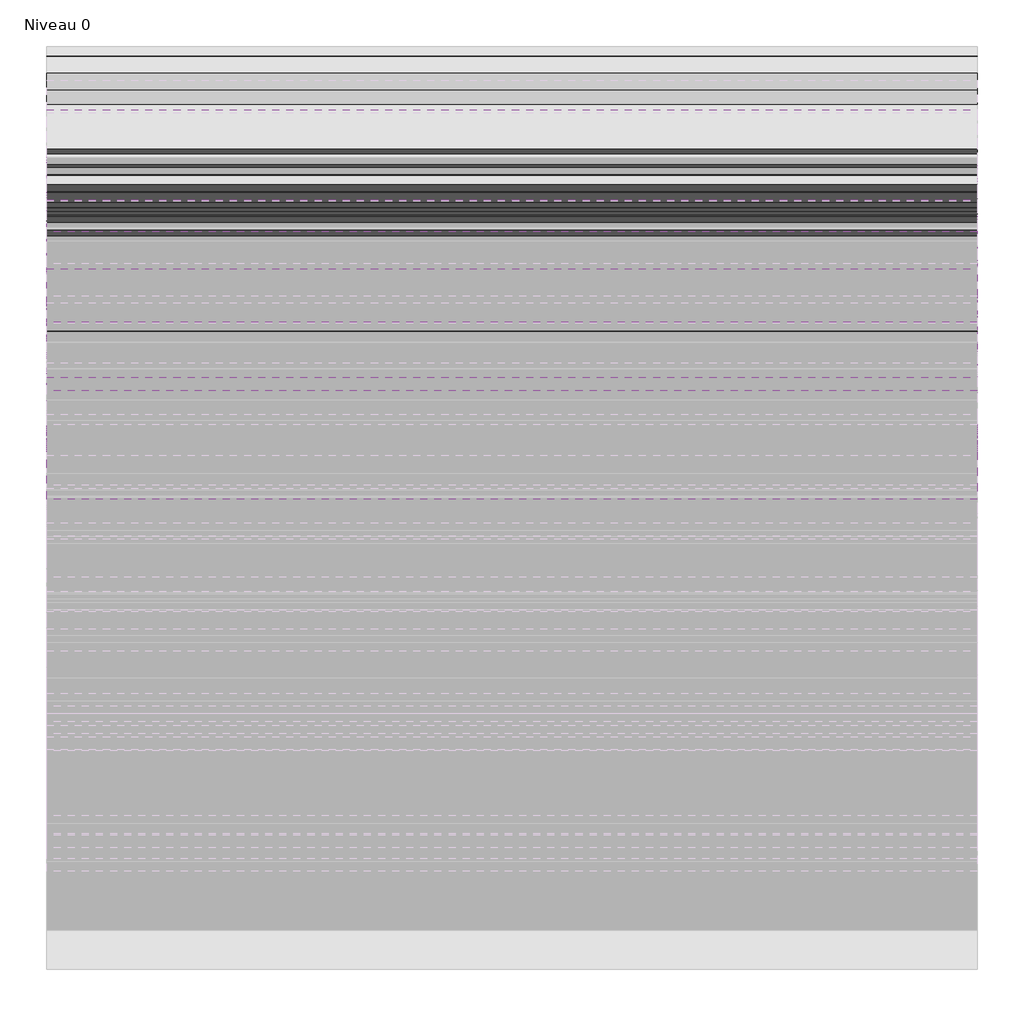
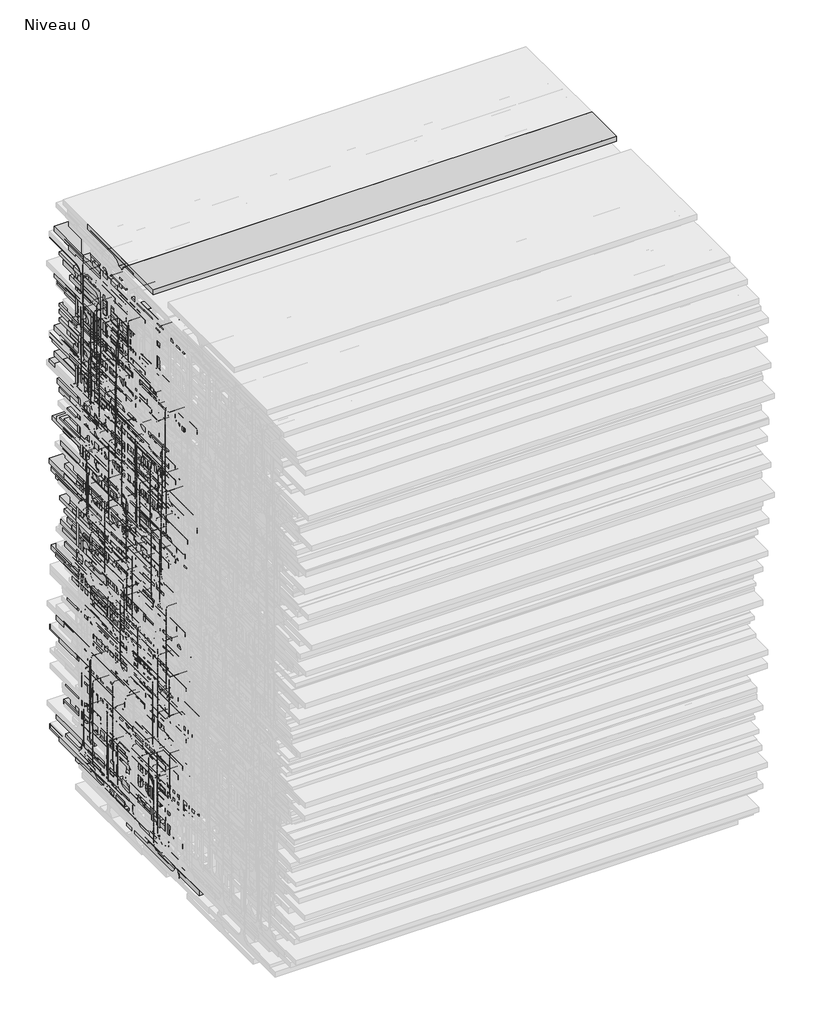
# One storey, part 11 of 26: 157 beams.
"""IFC4 building model written with IfcOpenShell, lengths in millimetres."""

from ifc_helpers import new_model, si_unit, origin, place, context, project, spatial, transform, mapped, element, save
from components import hea160_c7043086, hea240_b9c7735d, hea300_d8dc5cb0

model = new_model("IFC4")

# Units and contexts
model_context = context("Model", 3, world=origin())
ifc_project = project(units=[si_unit("LENGTHUNIT", "METRE", prefix="MILLI")], contexts=[model_context])

# Site, building, storey
site = spatial("IfcSite", under=ifc_project)
building = spatial("IfcBuilding", under=site)
storey = spatial("IfcBuildingStorey", under=building, Name="Niveau 0", Elevation=0.0)

# Beams
placement = place(None, origin())
hea160_shape = hea160_c7043086(model_context)
element("IfcBeam", 1, ObjectType="HE-A : HEA160", at=placement, inside=storey, context=model_context, shape_type="MappedRepresentation", body=[
    mapped(hea160_shape, transform((0.0, -4766.085515, 654.2846608), x_axis=(1.0, 0.0, 0.0), y_axis=(0.0, 1.0, 0.0), z_axis=(0.0, 0.0, 1.0))),
])
element("IfcBeam", 2, ObjectType="HE-A : HEA160", at=placement, inside=storey, context=model_context, shape_type="MappedRepresentation", body=[
    mapped(hea160_shape, transform((0.0, -4754.5716731, 548.2217066), x_axis=(1.0, 0.0, 0.0), y_axis=(0.0, 1.0, 0.0), z_axis=(0.0, 0.0, 1.0))),
])
element("IfcBeam", 3, ObjectType="HE-A : HEA160", at=placement, inside=storey, context=model_context, shape_type="MappedRepresentation", body=[
    mapped(hea160_shape, transform((0.0, -4647.0773416, 1209.559258), x_axis=(1.0, 0.0, 0.0), y_axis=(0.0, 1.0, 0.0), z_axis=(0.0, 0.0, 1.0))),
])
element("IfcBeam", 4, ObjectType="HE-A : HEA160", at=placement, inside=storey, context=model_context, shape_type="MappedRepresentation", body=[
    mapped(hea160_shape, transform((0.0, -4737.7300213, 1087.2819702), x_axis=(1.0, 0.0, 0.0), y_axis=(0.0, 1.0, 0.0), z_axis=(0.0, 0.0, 1.0))),
])
element("IfcBeam", 5, ObjectType="HE-A : HEA160", at=placement, inside=storey, context=model_context, shape_type="MappedRepresentation", body=[
    mapped(hea160_shape, transform((0.0, -4840.4656833, 1053.5180434), x_axis=(1.0, 0.0, 0.0), y_axis=(0.0, 1.0, 0.0), z_axis=(0.0, 0.0, 1.0))),
])
element("IfcBeam", 6, ObjectType="HE-A : HEA160", at=placement, inside=storey, context=model_context, shape_type="MappedRepresentation", body=[
    mapped(hea160_shape, transform((0.0, -4653.2237966, 1111.9155133), x_axis=(1.0, 0.0, 0.0), y_axis=(0.0, 1.0, 0.0), z_axis=(0.0, 0.0, 1.0))),
])
element("IfcBeam", 7, ObjectType="HE-A : HEA160", at=placement, inside=storey, context=model_context, shape_type="MappedRepresentation", body=[
    mapped(hea160_shape, transform((0.0, -4687.9515885, 1051.6461039), x_axis=(1.0, 0.0, 0.0), y_axis=(0.0, 1.0, 0.0), z_axis=(0.0, 0.0, 1.0))),
])
element("IfcBeam", 8, ObjectType="HE-A : HEA160", at=placement, inside=storey, context=model_context, shape_type="MappedRepresentation", body=[
    mapped(hea160_shape, transform((0.0, -4630.0752489, 1040.8164691), x_axis=(1.0, 0.0, 0.0), y_axis=(0.0, 1.0, 0.0), z_axis=(0.0, 0.0, 1.0))),
])
element("IfcBeam", 9, ObjectType="HE-A : HEA160", at=placement, inside=storey, context=model_context, shape_type="MappedRepresentation", body=[
    mapped(hea160_shape, transform((0.0, -4774.2773441, 836.4385335), x_axis=(1.0, 0.0, 0.0), y_axis=(0.0, 1.0, 0.0), z_axis=(0.0, 0.0, 1.0))),
])
element("IfcBeam", 10, ObjectType="HE-A : HEA160", at=placement, inside=storey, context=model_context, shape_type="MappedRepresentation", body=[
    mapped(hea160_shape, transform((0.0, -4874.1974748, 1007.1219333), x_axis=(1.0, 0.0, 0.0), y_axis=(0.0, 1.0, 0.0), z_axis=(0.0, 0.0, 1.0))),
])
element("IfcBeam", 11, ObjectType="HE-A : HEA160", at=placement, inside=storey, context=model_context, shape_type="MappedRepresentation", body=[
    mapped(hea160_shape, transform((0.0, -4946.6958411, 922.3513134), x_axis=(1.0, 0.0, 0.0), y_axis=(0.0, 1.0, 0.0), z_axis=(0.0, 0.0, 1.0))),
])
element("IfcBeam", 12, ObjectType="HE-A : HEA160", at=placement, inside=storey, context=model_context, shape_type="MappedRepresentation", body=[
    mapped(hea160_shape, transform((0.0, -4994.1502052, 314.5677682), x_axis=(1.0, 0.0, 0.0), y_axis=(0.0, 1.0, 0.0), z_axis=(0.0, 0.0, 1.0))),
])
element("IfcBeam", 13, ObjectType="HE-A : HEA160", at=placement, inside=storey, context=model_context, shape_type="MappedRepresentation", body=[
    mapped(hea160_shape, transform((0.0, -4997.2143501, 372.8591245), x_axis=(1.0, 0.0, 0.0), y_axis=(0.0, 1.0, 0.0), z_axis=(0.0, 0.0, 1.0))),
])
element("IfcBeam", 14, ObjectType="HE-A : HEA160", at=placement, inside=storey, context=model_context, shape_type="MappedRepresentation", body=[
    mapped(hea160_shape, transform((0.0, -4947.5004453, 1104.2032508), x_axis=(1.0, 0.0, 0.0), y_axis=(0.0, 1.0, 0.0), z_axis=(0.0, 0.0, 1.0))),
])
element("IfcBeam", 15, ObjectType="HE-A : HEA160", at=placement, inside=storey, context=model_context, shape_type="MappedRepresentation", body=[
    mapped(hea160_shape, transform((0.0, -4998.8663227, 162.1608987), x_axis=(1.0, 0.0, 0.0), y_axis=(0.0, 1.0, 0.0), z_axis=(0.0, 0.0, 1.0))),
])
element("IfcBeam", 16, ObjectType="HE-A : HEA160", at=placement, inside=storey, context=model_context, shape_type="MappedRepresentation", body=[
    mapped(hea160_shape, transform((0.0, -4637.5501645, 511.5746566), x_axis=(1.0, 0.0, 0.0), y_axis=(0.0, 1.0, 0.0), z_axis=(0.0, 0.0, 1.0))),
])
element("IfcBeam", 17, ObjectType="HE-A : HEA160", at=placement, inside=storey, context=model_context, shape_type="MappedRepresentation", body=[
    mapped(hea160_shape, transform((0.0, -4601.1993587, 533.9813203), x_axis=(1.0, 0.0, 0.0), y_axis=(0.0, 1.0, 0.0), z_axis=(0.0, 0.0, 1.0))),
])
element("IfcBeam", 18, ObjectType="HE-A : HEA160", at=placement, inside=storey, context=model_context, shape_type="MappedRepresentation", body=[
    mapped(hea160_shape, transform((0.0, -4638.5410436, 557.513522), x_axis=(1.0, 0.0, 0.0), y_axis=(0.0, 1.0, 0.0), z_axis=(0.0, 0.0, 1.0))),
])
element("IfcBeam", 19, ObjectType="HE-A : HEA160", at=placement, inside=storey, context=model_context, shape_type="MappedRepresentation", body=[
    mapped(hea160_shape, transform((0.0, -4710.3968624, 486.2327022), x_axis=(1.0, 0.0, 0.0), y_axis=(0.0, 1.0, 0.0), z_axis=(0.0, 0.0, 1.0))),
])
element("IfcBeam", 20, ObjectType="HE-A : HEA160", at=placement, inside=storey, context=model_context, shape_type="MappedRepresentation", body=[
    mapped(hea160_shape, transform((0.0, -4863.7043748, 71.5875806), x_axis=(1.0, 0.0, 0.0), y_axis=(0.0, 1.0, 0.0), z_axis=(0.0, 0.0, 1.0))),
])
element("IfcBeam", 21, ObjectType="HE-A : HEA160", at=placement, inside=storey, context=model_context, shape_type="MappedRepresentation", body=[
    mapped(hea160_shape, transform((0.0, -4903.6519636, 98.7178111), x_axis=(1.0, 0.0, 0.0), y_axis=(0.0, 1.0, 0.0), z_axis=(0.0, 0.0, 1.0))),
])
element("IfcBeam", 22, ObjectType="HE-A : HEA160", at=placement, inside=storey, context=model_context, shape_type="MappedRepresentation", body=[
    mapped(hea160_shape, transform((0.0, -4795.0231192, 771.3540093), x_axis=(1.0, 0.0, 0.0), y_axis=(0.0, 1.0, 0.0), z_axis=(0.0, 0.0, 1.0))),
])
element("IfcBeam", 23, ObjectType="HE-A : HEA160", at=placement, inside=storey, context=model_context, shape_type="MappedRepresentation", body=[
    mapped(hea160_shape, transform((0.0, -4677.0715241, 726.2881966), x_axis=(1.0, 0.0, 0.0), y_axis=(0.0, 1.0, 0.0), z_axis=(0.0, 0.0, 1.0))),
])
element("IfcBeam", 24, ObjectType="HE-A : HEA160", at=placement, inside=storey, context=model_context, shape_type="MappedRepresentation", body=[
    mapped(hea160_shape, transform((0.0, -4791.5964035, 495.9443399), x_axis=(1.0, 0.0, 0.0), y_axis=(0.0, 1.0, 0.0), z_axis=(0.0, 0.0, 1.0))),
])
element("IfcBeam", 25, ObjectType="HE-A : HEA160", at=placement, inside=storey, context=model_context, shape_type="MappedRepresentation", body=[
    mapped(hea160_shape, transform((0.0, -4802.8832285, 553.0938603), x_axis=(1.0, 0.0, 0.0), y_axis=(0.0, 1.0, 0.0), z_axis=(0.0, 0.0, 1.0))),
])
element("IfcBeam", 26, ObjectType="HE-A : HEA160", at=placement, inside=storey, context=model_context, shape_type="MappedRepresentation", body=[
    mapped(hea160_shape, transform((0.0, -4900.5465809, 833.1469262), x_axis=(1.0, 0.0, 0.0), y_axis=(0.0, 1.0, 0.0), z_axis=(0.0, 0.0, 1.0))),
])
element("IfcBeam", 27, ObjectType="HE-A : HEA160", at=placement, inside=storey, context=model_context, shape_type="MappedRepresentation", body=[
    mapped(hea160_shape, transform((0.0, -4993.4966074, 17.7937401), x_axis=(1.0, 0.0, 0.0), y_axis=(0.0, 1.0, 0.0), z_axis=(0.0, 0.0, 1.0))),
])
element("IfcBeam", 28, ObjectType="HE-A : HEA160", at=placement, inside=storey, context=model_context, shape_type="MappedRepresentation", body=[
    mapped(hea160_shape, transform((0.0, -4810.6854594, 1283.5057438), x_axis=(1.0, 0.0, 0.0), y_axis=(0.0, 1.0, 0.0), z_axis=(0.0, 0.0, 1.0))),
])
element("IfcBeam", 29, ObjectType="HE-A : HEA160", at=placement, inside=storey, context=model_context, shape_type="MappedRepresentation", body=[
    mapped(hea160_shape, transform((0.0, -4576.882196, 1235.3534131), x_axis=(1.0, 0.0, 0.0), y_axis=(0.0, 1.0, 0.0), z_axis=(0.0, 0.0, 1.0))),
])
element("IfcBeam", 30, ObjectType="HE-A : HEA160", at=placement, inside=storey, context=model_context, shape_type="MappedRepresentation", body=[
    mapped(hea160_shape, transform((0.0, -4809.7292875, 1250.2208255), x_axis=(1.0, 0.0, 0.0), y_axis=(0.0, 1.0, 0.0), z_axis=(0.0, 0.0, 1.0))),
])
element("IfcBeam", 31, ObjectType="HE-A : HEA160", at=placement, inside=storey, context=model_context, shape_type="MappedRepresentation", body=[
    mapped(hea160_shape, transform((0.0, -4944.4681469, 21.2775679), x_axis=(1.0, 0.0, 0.0), y_axis=(0.0, 1.0, 0.0), z_axis=(0.0, 0.0, 1.0))),
])
element("IfcBeam", 32, ObjectType="HE-A : HEA160", at=placement, inside=storey, context=model_context, shape_type="MappedRepresentation", body=[
    mapped(hea160_shape, transform((0.0, -4653.6201099, 17.5775139), x_axis=(1.0, 0.0, 0.0), y_axis=(0.0, 1.0, 0.0), z_axis=(0.0, 0.0, 1.0))),
])
element("IfcBeam", 33, ObjectType="HE-A : HEA160", at=placement, inside=storey, context=model_context, shape_type="MappedRepresentation", body=[
    mapped(hea160_shape, transform((0.0, -4764.1626026, 1215.4339686), x_axis=(1.0, 0.0, 0.0), y_axis=(0.0, 1.0, 0.0), z_axis=(0.0, 0.0, 1.0))),
])
element("IfcBeam", 34, ObjectType="HE-A : HEA160", at=placement, inside=storey, context=model_context, shape_type="MappedRepresentation", body=[
    mapped(hea160_shape, transform((0.0, -4677.0691597, 133.6817172), x_axis=(1.0, 0.0, 0.0), y_axis=(0.0, 1.0, 0.0), z_axis=(0.0, 0.0, 1.0))),
])
element("IfcBeam", 35, ObjectType="HE-A : HEA160", at=placement, inside=storey, context=model_context, shape_type="MappedRepresentation", body=[
    mapped(hea160_shape, transform((0.0, -4879.8959147, 126.0409854), x_axis=(1.0, 0.0, 0.0), y_axis=(0.0, 1.0, 0.0), z_axis=(0.0, 0.0, 1.0))),
])
element("IfcBeam", 36, ObjectType="HE-A : HEA160", at=placement, inside=storey, context=model_context, shape_type="MappedRepresentation", body=[
    mapped(hea160_shape, transform((0.0, -4815.9994282, 222.9712681), x_axis=(1.0, 0.0, 0.0), y_axis=(0.0, 1.0, 0.0), z_axis=(0.0, 0.0, 1.0))),
])
element("IfcBeam", 37, ObjectType="HE-A : HEA160", at=placement, inside=storey, context=model_context, shape_type="MappedRepresentation", body=[
    mapped(hea160_shape, transform((0.0, -4576.8916592, 1051.2744522), x_axis=(1.0, 0.0, 0.0), y_axis=(0.0, 1.0, 0.0), z_axis=(0.0, 0.0, 1.0))),
])
element("IfcBeam", 38, ObjectType="HE-A : HEA160", at=placement, inside=storey, context=model_context, shape_type="MappedRepresentation", body=[
    mapped(hea160_shape, transform((0.0, -4589.6497846, 998.4490697), x_axis=(1.0, 0.0, 0.0), y_axis=(0.0, 1.0, 0.0), z_axis=(0.0, 0.0, 1.0))),
])
element("IfcBeam", 39, ObjectType="HE-A : HEA160", at=placement, inside=storey, context=model_context, shape_type="MappedRepresentation", body=[
    mapped(hea160_shape, transform((0.0, -4685.4207865, 1103.4375532), x_axis=(1.0, 0.0, 0.0), y_axis=(0.0, 1.0, 0.0), z_axis=(0.0, 0.0, 1.0))),
])
element("IfcBeam", 40, ObjectType="HE-A : HEA160", at=placement, inside=storey, context=model_context, shape_type="MappedRepresentation", body=[
    mapped(hea160_shape, transform((0.0, -4952.5523981, 1322.3126145), x_axis=(1.0, 0.0, 0.0), y_axis=(0.0, 1.0, 0.0), z_axis=(0.0, 0.0, 1.0))),
])
element("IfcBeam", 41, ObjectType="HE-A : HEA160", at=placement, inside=storey, context=model_context, shape_type="MappedRepresentation", body=[
    mapped(hea160_shape, transform((0.0, -4894.9178951, 912.2768675), x_axis=(1.0, 0.0, 0.0), y_axis=(0.0, 1.0, 0.0), z_axis=(0.0, 0.0, 1.0))),
])
element("IfcBeam", 42, ObjectType="HE-A : HEA160", at=placement, inside=storey, context=model_context, shape_type="MappedRepresentation", body=[
    mapped(hea160_shape, transform((0.0, -4884.571669, 865.8304899), x_axis=(1.0, 0.0, 0.0), y_axis=(0.0, 1.0, 0.0), z_axis=(0.0, 0.0, 1.0))),
])
element("IfcBeam", 43, ObjectType="HE-A : HEA160", at=placement, inside=storey, context=model_context, shape_type="MappedRepresentation", body=[
    mapped(hea160_shape, transform((0.0, -4862.2938911, 831.3350584), x_axis=(1.0, 0.0, 0.0), y_axis=(0.0, 1.0, 0.0), z_axis=(0.0, 0.0, 1.0))),
])
element("IfcBeam", 44, ObjectType="HE-A : HEA160", at=placement, inside=storey, context=model_context, shape_type="MappedRepresentation", body=[
    mapped(hea160_shape, transform((0.0, -4680.7779966, 863.1898155), x_axis=(1.0, 0.0, 0.0), y_axis=(0.0, 1.0, 0.0), z_axis=(0.0, 0.0, 1.0))),
])
element("IfcBeam", 45, ObjectType="HE-A : HEA160", at=placement, inside=storey, context=model_context, shape_type="MappedRepresentation", body=[
    mapped(hea160_shape, transform((0.0, -4596.9037996, 755.0445289), x_axis=(1.0, 0.0, 0.0), y_axis=(0.0, 1.0, 0.0), z_axis=(0.0, 0.0, 1.0))),
])
element("IfcBeam", 46, ObjectType="HE-A : HEA160", at=placement, inside=storey, context=model_context, shape_type="MappedRepresentation", body=[
    mapped(hea160_shape, transform((0.0, -4631.6061373, 912.0320271), x_axis=(1.0, 0.0, 0.0), y_axis=(0.0, 1.0, 0.0), z_axis=(0.0, 0.0, 1.0))),
])
element("IfcBeam", 47, ObjectType="HE-A : HEA160", at=placement, inside=storey, context=model_context, shape_type="MappedRepresentation", body=[
    mapped(hea160_shape, transform((0.0, -4847.8265316, 753.065505), x_axis=(1.0, 0.0, 0.0), y_axis=(0.0, 1.0, 0.0), z_axis=(0.0, 0.0, 1.0))),
])
element("IfcBeam", 48, ObjectType="HE-A : HEA160", at=placement, inside=storey, context=model_context, shape_type="MappedRepresentation", body=[
    mapped(hea160_shape, transform((0.0, -4867.9810009, 681.6574011), x_axis=(1.0, 0.0, 0.0), y_axis=(0.0, 1.0, 0.0), z_axis=(0.0, 0.0, 1.0))),
])
element("IfcBeam", 49, ObjectType="HE-A : HEA160", at=placement, inside=storey, context=model_context, shape_type="MappedRepresentation", body=[
    mapped(hea160_shape, transform((0.0, -4874.7624228, 640.0818907), x_axis=(1.0, 0.0, 0.0), y_axis=(0.0, 1.0, 0.0), z_axis=(0.0, 0.0, 1.0))),
])
element("IfcBeam", 50, ObjectType="HE-A : HEA160", at=placement, inside=storey, context=model_context, shape_type="MappedRepresentation", body=[
    mapped(hea160_shape, transform((0.0, -4720.8338099, 759.3689731), x_axis=(1.0, 0.0, 0.0), y_axis=(0.0, 1.0, 0.0), z_axis=(0.0, 0.0, 1.0))),
])
element("IfcBeam", 51, ObjectType="HE-A : HEA160", at=placement, inside=storey, context=model_context, shape_type="MappedRepresentation", body=[
    mapped(hea160_shape, transform((0.0, -4627.4280388, 718.6305419), x_axis=(1.0, 0.0, 0.0), y_axis=(0.0, 1.0, 0.0), z_axis=(0.0, 0.0, 1.0))),
])
element("IfcBeam", 52, ObjectType="HE-A : HEA160", at=placement, inside=storey, context=model_context, shape_type="MappedRepresentation", body=[
    mapped(hea160_shape, transform((0.0, -4813.3902483, 977.0985762), x_axis=(1.0, 0.0, 0.0), y_axis=(0.0, 1.0, 0.0), z_axis=(0.0, 0.0, 1.0))),
])
element("IfcBeam", 53, ObjectType="HE-A : HEA160", at=placement, inside=storey, context=model_context, shape_type="MappedRepresentation", body=[
    mapped(hea160_shape, transform((0.0, -4767.2337132, 1166.9486138), x_axis=(1.0, 0.0, 0.0), y_axis=(0.0, 1.0, 0.0), z_axis=(0.0, 0.0, 1.0))),
])
element("IfcBeam", 54, ObjectType="HE-A : HEA160", at=placement, inside=storey, context=model_context, shape_type="MappedRepresentation", body=[
    mapped(hea160_shape, transform((0.0, -4981.9208584, 814.2912914), x_axis=(1.0, 0.0, 0.0), y_axis=(0.0, 1.0, 0.0), z_axis=(0.0, 0.0, 1.0))),
])
element("IfcBeam", 55, ObjectType="HE-A : HEA160", at=placement, inside=storey, context=model_context, shape_type="MappedRepresentation", body=[
    mapped(hea160_shape, transform((0.0, -4983.123733, 880.1337838), x_axis=(1.0, 0.0, 0.0), y_axis=(0.0, 1.0, 0.0), z_axis=(0.0, 0.0, 1.0))),
])
element("IfcBeam", 56, ObjectType="HE-A : HEA160", at=placement, inside=storey, context=model_context, shape_type="MappedRepresentation", body=[
    mapped(hea160_shape, transform((0.0, -4607.2660592, 55.2511675), x_axis=(1.0, 0.0, 0.0), y_axis=(0.0, 1.0, 0.0), z_axis=(0.0, 0.0, 1.0))),
])
element("IfcBeam", 57, ObjectType="HE-A : HEA160", at=placement, inside=storey, context=model_context, shape_type="MappedRepresentation", body=[
    mapped(hea160_shape, transform((0.0, -4719.1308526, 25.7636897), x_axis=(1.0, 0.0, 0.0), y_axis=(0.0, 1.0, 0.0), z_axis=(0.0, 0.0, 1.0))),
])
element("IfcBeam", 58, ObjectType="HE-A : HEA160", at=placement, inside=storey, context=model_context, shape_type="MappedRepresentation", body=[
    mapped(hea160_shape, transform((0.0, -4761.926859, 45.816228), x_axis=(1.0, 0.0, 0.0), y_axis=(0.0, 1.0, 0.0), z_axis=(0.0, 0.0, 1.0))),
])
element("IfcBeam", 59, ObjectType="HE-A : HEA160", at=placement, inside=storey, context=model_context, shape_type="MappedRepresentation", body=[
    mapped(hea160_shape, transform((0.0, -4970.6486695, 332.1452999), x_axis=(1.0, 0.0, 0.0), y_axis=(0.0, 1.0, 0.0), z_axis=(0.0, 0.0, 1.0))),
])
element("IfcBeam", 60, ObjectType="HE-A : HEA160", at=placement, inside=storey, context=model_context, shape_type="MappedRepresentation", body=[
    mapped(hea160_shape, transform((0.0, -4654.6901036, 1184.1215117), x_axis=(1.0, 0.0, 0.0), y_axis=(0.0, 1.0, 0.0), z_axis=(0.0, 0.0, 1.0))),
])
element("IfcBeam", 61, ObjectType="HE-A : HEA160", at=placement, inside=storey, context=model_context, shape_type="MappedRepresentation", body=[
    mapped(hea160_shape, transform((0.0, -4602.379347, 1286.1313507), x_axis=(1.0, 0.0, 0.0), y_axis=(0.0, 1.0, 0.0), z_axis=(0.0, 0.0, 1.0))),
])
element("IfcBeam", 62, ObjectType="HE-A : HEA160", at=placement, inside=storey, context=model_context, shape_type="MappedRepresentation", body=[
    mapped(hea160_shape, transform((0.0, -4720.4261791, 1320.7280968), x_axis=(1.0, 0.0, 0.0), y_axis=(0.0, 1.0, 0.0), z_axis=(0.0, 0.0, 1.0))),
])
element("IfcBeam", 63, ObjectType="HE-A : HEA160", at=placement, inside=storey, context=model_context, shape_type="MappedRepresentation", body=[
    mapped(hea160_shape, transform((0.0, -4846.8500811, 515.3584506), x_axis=(1.0, 0.0, 0.0), y_axis=(0.0, 1.0, 0.0), z_axis=(0.0, 0.0, 1.0))),
])
element("IfcBeam", 64, ObjectType="HE-A : HEA160", at=placement, inside=storey, context=model_context, shape_type="MappedRepresentation", body=[
    mapped(hea160_shape, transform((0.0, -4852.9938815, 423.8137043), x_axis=(1.0, 0.0, 0.0), y_axis=(0.0, 1.0, 0.0), z_axis=(0.0, 0.0, 1.0))),
])
hea240_shape = hea240_b9c7735d(model_context)
element("IfcBeam", 65, ObjectType="HE-A : HEA240", at=placement, inside=storey, context=model_context, shape_type="MappedRepresentation", body=[
    mapped(hea240_shape, transform((0.0, -4717.5006235, 570.5307186), x_axis=(1.0, 0.0, 0.0), y_axis=(0.0, 1.0, 0.0), z_axis=(0.0, 0.0, 1.0))),
])
element("IfcBeam", 66, ObjectType="HE-A : HEA240", at=placement, inside=storey, context=model_context, shape_type="MappedRepresentation", body=[
    mapped(hea240_shape, transform((0.0, -4702.3688097, 629.152554), x_axis=(1.0, 0.0, 0.0), y_axis=(0.0, 1.0, 0.0), z_axis=(0.0, 0.0, 1.0))),
])
element("IfcBeam", 67, ObjectType="HE-A : HEA240", at=placement, inside=storey, context=model_context, shape_type="MappedRepresentation", body=[
    mapped(hea240_shape, transform((0.0, -4582.0744333, 577.3491029), x_axis=(1.0, 0.0, 0.0), y_axis=(0.0, 1.0, 0.0), z_axis=(0.0, 0.0, 1.0))),
])
element("IfcBeam", 68, ObjectType="HE-A : HEA240", at=placement, inside=storey, context=model_context, shape_type="MappedRepresentation", body=[
    mapped(hea240_shape, transform((0.0, -4642.3236876, 621.9226977), x_axis=(1.0, 0.0, 0.0), y_axis=(0.0, 1.0, 0.0), z_axis=(0.0, 0.0, 1.0))),
])
element("IfcBeam", 69, ObjectType="HE-A : HEA240", at=placement, inside=storey, context=model_context, shape_type="MappedRepresentation", body=[
    mapped(hea240_shape, transform((0.0, -4666.2766138, 1160.0468731), x_axis=(1.0, 0.0, 0.0), y_axis=(0.0, 1.0, 0.0), z_axis=(0.0, 0.0, 1.0))),
])
element("IfcBeam", 70, ObjectType="HE-A : HEA240", at=placement, inside=storey, context=model_context, shape_type="MappedRepresentation", body=[
    mapped(hea240_shape, transform((0.0, -4702.9569893, 1148.6576216), x_axis=(1.0, 0.0, 0.0), y_axis=(0.0, 1.0, 0.0), z_axis=(0.0, 0.0, 1.0))),
])
element("IfcBeam", 71, ObjectType="HE-A : HEA240", at=placement, inside=storey, context=model_context, shape_type="MappedRepresentation", body=[
    mapped(hea240_shape, transform((0.0, -4683.7577172, 1198.1700065), x_axis=(1.0, 0.0, 0.0), y_axis=(0.0, 1.0, 0.0), z_axis=(0.0, 0.0, 1.0))),
])
element("IfcBeam", 72, ObjectType="HE-A : HEA240", at=placement, inside=storey, context=model_context, shape_type="MappedRepresentation", body=[
    mapped(hea240_shape, transform((0.0, -4777.9216247, 1098.7973629), x_axis=(1.0, 0.0, 0.0), y_axis=(0.0, 1.0, 0.0), z_axis=(0.0, 0.0, 1.0))),
])
element("IfcBeam", 73, ObjectType="HE-A : HEA240", at=placement, inside=storey, context=model_context, shape_type="MappedRepresentation", body=[
    mapped(hea240_shape, transform((0.0, -4876.8132475, 948.2344996), x_axis=(1.0, 0.0, 0.0), y_axis=(0.0, 1.0, 0.0), z_axis=(0.0, 0.0, 1.0))),
])
element("IfcBeam", 74, ObjectType="HE-A : HEA240", at=placement, inside=storey, context=model_context, shape_type="MappedRepresentation", body=[
    mapped(hea240_shape, transform((0.0, -4909.8590736, 882.618457), x_axis=(1.0, 0.0, 0.0), y_axis=(0.0, 1.0, 0.0), z_axis=(0.0, 0.0, 1.0))),
])
element("IfcBeam", 75, ObjectType="HE-A : HEA240", at=placement, inside=storey, context=model_context, shape_type="MappedRepresentation", body=[
    mapped(hea240_shape, transform((0.0, -4963.9137677, 967.5836722), x_axis=(1.0, 0.0, 0.0), y_axis=(0.0, 1.0, 0.0), z_axis=(0.0, 0.0, 1.0))),
])
element("IfcBeam", 76, ObjectType="HE-A : HEA240", at=placement, inside=storey, context=model_context, shape_type="MappedRepresentation", body=[
    mapped(hea240_shape, transform((0.0, -4920.8139814, 286.7972898), x_axis=(1.0, 0.0, 0.0), y_axis=(0.0, 1.0, 0.0), z_axis=(0.0, 0.0, 1.0))),
])
element("IfcBeam", 77, ObjectType="HE-A : HEA240", at=placement, inside=storey, context=model_context, shape_type="MappedRepresentation", body=[
    mapped(hea240_shape, transform((0.0, -4974.5852262, 428.8064172), x_axis=(1.0, 0.0, 0.0), y_axis=(0.0, 1.0, 0.0), z_axis=(0.0, 0.0, 1.0))),
])
element("IfcBeam", 78, ObjectType="HE-A : HEA240", at=placement, inside=storey, context=model_context, shape_type="MappedRepresentation", body=[
    mapped(hea240_shape, transform((0.0, -4935.9089722, 1014.9037732), x_axis=(1.0, 0.0, 0.0), y_axis=(0.0, 1.0, 0.0), z_axis=(0.0, 0.0, 1.0))),
])
element("IfcBeam", 79, ObjectType="HE-A : HEA240", at=placement, inside=storey, context=model_context, shape_type="MappedRepresentation", body=[
    mapped(hea240_shape, transform((0.0, -4952.6705931, 703.117506), x_axis=(1.0, 0.0, 0.0), y_axis=(0.0, 1.0, 0.0), z_axis=(0.0, 0.0, 1.0))),
])
element("IfcBeam", 80, ObjectType="HE-A : HEA240", at=placement, inside=storey, context=model_context, shape_type="MappedRepresentation", body=[
    mapped(hea240_shape, transform((0.0, -4935.8698818, 745.6971772), x_axis=(1.0, 0.0, 0.0), y_axis=(0.0, 1.0, 0.0), z_axis=(0.0, 0.0, 1.0))),
])
element("IfcBeam", 81, ObjectType="HE-A : HEA240", at=placement, inside=storey, context=model_context, shape_type="MappedRepresentation", body=[
    mapped(hea240_shape, transform((0.0, -4985.5655268, 223.2576595), x_axis=(1.0, 0.0, 0.0), y_axis=(0.0, 1.0, 0.0), z_axis=(0.0, 0.0, 1.0))),
])
element("IfcBeam", 82, ObjectType="HE-A : HEA240", at=placement, inside=storey, context=model_context, shape_type="MappedRepresentation", body=[
    mapped(hea240_shape, transform((0.0, -4925.237995, 15.430492), x_axis=(1.0, 0.0, 0.0), y_axis=(0.0, 1.0, 0.0), z_axis=(0.0, 0.0, 1.0))),
])
element("IfcBeam", 83, ObjectType="HE-A : HEA240", at=placement, inside=storey, context=model_context, shape_type="MappedRepresentation", body=[
    mapped(hea240_shape, transform((0.0, -4952.3916012, 48.6795656), x_axis=(1.0, 0.0, 0.0), y_axis=(0.0, 1.0, 0.0), z_axis=(0.0, 0.0, 1.0))),
])
element("IfcBeam", 84, ObjectType="HE-A : HEA240", at=placement, inside=storey, context=model_context, shape_type="MappedRepresentation", body=[
    mapped(hea240_shape, transform((0.0, -4919.3062447, 47.205021), x_axis=(1.0, 0.0, 0.0), y_axis=(0.0, 1.0, 0.0), z_axis=(0.0, 0.0, 1.0))),
])
element("IfcBeam", 85, ObjectType="HE-A : HEA240", at=placement, inside=storey, context=model_context, shape_type="MappedRepresentation", body=[
    mapped(hea240_shape, transform((0.0, -4652.9998436, 479.1535715), x_axis=(1.0, 0.0, 0.0), y_axis=(0.0, 1.0, 0.0), z_axis=(0.0, 0.0, 1.0))),
])
element("IfcBeam", 86, ObjectType="HE-A : HEA240", at=placement, inside=storey, context=model_context, shape_type="MappedRepresentation", body=[
    mapped(hea240_shape, transform((0.0, -4799.9341275, 723.910135), x_axis=(1.0, 0.0, 0.0), y_axis=(0.0, 1.0, 0.0), z_axis=(0.0, 0.0, 1.0))),
])
element("IfcBeam", 87, ObjectType="HE-A : HEA240", at=placement, inside=storey, context=model_context, shape_type="MappedRepresentation", body=[
    mapped(hea240_shape, transform((0.0, -4619.6729328, 737.4316362), x_axis=(1.0, 0.0, 0.0), y_axis=(0.0, 1.0, 0.0), z_axis=(0.0, 0.0, 1.0))),
])
element("IfcBeam", 88, ObjectType="HE-A : HEA240", at=placement, inside=storey, context=model_context, shape_type="MappedRepresentation", body=[
    mapped(hea240_shape, transform((0.0, -4623.7817856, 673.7510281), x_axis=(1.0, 0.0, 0.0), y_axis=(0.0, 1.0, 0.0), z_axis=(0.0, 0.0, 1.0))),
])
element("IfcBeam", 89, ObjectType="HE-A : HEA240", at=placement, inside=storey, context=model_context, shape_type="MappedRepresentation", body=[
    mapped(hea240_shape, transform((0.0, -4818.9008449, 525.3930084), x_axis=(1.0, 0.0, 0.0), y_axis=(0.0, 1.0, 0.0), z_axis=(0.0, 0.0, 1.0))),
])
element("IfcBeam", 90, ObjectType="HE-A : HEA240", at=placement, inside=storey, context=model_context, shape_type="MappedRepresentation", body=[
    mapped(hea240_shape, transform((0.0, -4827.3381835, 580.6064303), x_axis=(1.0, 0.0, 0.0), y_axis=(0.0, 1.0, 0.0), z_axis=(0.0, 0.0, 1.0))),
])
element("IfcBeam", 91, ObjectType="HE-A : HEA240", at=placement, inside=storey, context=model_context, shape_type="MappedRepresentation", body=[
    mapped(hea240_shape, transform((0.0, -4769.604669, 1262.9753047), x_axis=(1.0, 0.0, 0.0), y_axis=(0.0, 1.0, 0.0), z_axis=(0.0, 0.0, 1.0))),
])
element("IfcBeam", 92, ObjectType="HE-A : HEA240", at=placement, inside=storey, context=model_context, shape_type="MappedRepresentation", body=[
    mapped(hea240_shape, transform((0.0, -4828.0321855, 48.8793281), x_axis=(1.0, 0.0, 0.0), y_axis=(0.0, 1.0, 0.0), z_axis=(0.0, 0.0, 1.0))),
])
element("IfcBeam", 93, ObjectType="HE-A : HEA240", at=placement, inside=storey, context=model_context, shape_type="MappedRepresentation", body=[
    mapped(hea240_shape, transform((0.0, -4638.3881231, 181.0299789), x_axis=(1.0, 0.0, 0.0), y_axis=(0.0, 1.0, 0.0), z_axis=(0.0, 0.0, 1.0))),
])
element("IfcBeam", 94, ObjectType="HE-A : HEA240", at=placement, inside=storey, context=model_context, shape_type="MappedRepresentation", body=[
    mapped(hea240_shape, transform((0.0, -4941.805829, 107.0866257), x_axis=(1.0, 0.0, 0.0), y_axis=(0.0, 1.0, 0.0), z_axis=(0.0, 0.0, 1.0))),
])
element("IfcBeam", 95, ObjectType="HE-A : HEA240", at=placement, inside=storey, context=model_context, shape_type="MappedRepresentation", body=[
    mapped(hea240_shape, transform((0.0, -4594.5236453, 1123.0208958), x_axis=(1.0, 0.0, 0.0), y_axis=(0.0, 1.0, 0.0), z_axis=(0.0, 0.0, 1.0))),
])
element("IfcBeam", 96, ObjectType="HE-A : HEA240", at=placement, inside=storey, context=model_context, shape_type="MappedRepresentation", body=[
    mapped(hea240_shape, transform((0.0, -4618.1404107, 1037.1531478), x_axis=(1.0, 0.0, 0.0), y_axis=(0.0, 1.0, 0.0), z_axis=(0.0, 0.0, 1.0))),
])
element("IfcBeam", 97, ObjectType="HE-A : HEA240", at=placement, inside=storey, context=model_context, shape_type="MappedRepresentation", body=[
    mapped(hea240_shape, transform((0.0, -4653.4876602, 1002.2109636), x_axis=(1.0, 0.0, 0.0), y_axis=(0.0, 1.0, 0.0), z_axis=(0.0, 0.0, 1.0))),
])
element("IfcBeam", 98, ObjectType="HE-A : HEA240", at=placement, inside=storey, context=model_context, shape_type="MappedRepresentation", body=[
    mapped(hea240_shape, transform((0.0, -4676.6350468, 1050.7322445), x_axis=(1.0, 0.0, 0.0), y_axis=(0.0, 1.0, 0.0), z_axis=(0.0, 0.0, 1.0))),
])
element("IfcBeam", 99, ObjectType="HE-A : HEA240", at=placement, inside=storey, context=model_context, shape_type="MappedRepresentation", body=[
    mapped(hea240_shape, transform((0.0, -4841.1776687, 917.6677266), x_axis=(1.0, 0.0, 0.0), y_axis=(0.0, 1.0, 0.0), z_axis=(0.0, 0.0, 1.0))),
])
element("IfcBeam", 100, ObjectType="HE-A : HEA240", at=placement, inside=storey, context=model_context, shape_type="MappedRepresentation", body=[
    mapped(hea240_shape, transform((0.0, -4720.5137233, 830.8630186), x_axis=(1.0, 0.0, 0.0), y_axis=(0.0, 1.0, 0.0), z_axis=(0.0, 0.0, 1.0))),
])
element("IfcBeam", 101, ObjectType="HE-A : HEA240", at=placement, inside=storey, context=model_context, shape_type="MappedRepresentation", body=[
    mapped(hea240_shape, transform((0.0, -4755.8907124, 905.4169651), x_axis=(1.0, 0.0, 0.0), y_axis=(0.0, 1.0, 0.0), z_axis=(0.0, 0.0, 1.0))),
])
element("IfcBeam", 102, ObjectType="HE-A : HEA240", at=placement, inside=storey, context=model_context, shape_type="MappedRepresentation", body=[
    mapped(hea240_shape, transform((0.0, -4641.3957203, 963.9044882), x_axis=(1.0, 0.0, 0.0), y_axis=(0.0, 1.0, 0.0), z_axis=(0.0, 0.0, 1.0))),
])
element("IfcBeam", 103, ObjectType="HE-A : HEA240", at=placement, inside=storey, context=model_context, shape_type="MappedRepresentation", body=[
    mapped(hea240_shape, transform((0.0, -4584.6918351, 938.8594184), x_axis=(1.0, 0.0, 0.0), y_axis=(0.0, 1.0, 0.0), z_axis=(0.0, 0.0, 1.0))),
])
element("IfcBeam", 104, ObjectType="HE-A : HEA240", at=placement, inside=storey, context=model_context, shape_type="MappedRepresentation", body=[
    mapped(hea240_shape, transform((0.0, -4913.8842136, 695.9890236), x_axis=(1.0, 0.0, 0.0), y_axis=(0.0, 1.0, 0.0), z_axis=(0.0, 0.0, 1.0))),
])
element("IfcBeam", 105, ObjectType="HE-A : HEA240", at=placement, inside=storey, context=model_context, shape_type="MappedRepresentation", body=[
    mapped(hea240_shape, transform((0.0, -4602.4820858, 569.3800906), x_axis=(1.0, 0.0, 0.0), y_axis=(0.0, 1.0, 0.0), z_axis=(0.0, 0.0, 1.0))),
])
element("IfcBeam", 106, ObjectType="HE-A : HEA240", at=placement, inside=storey, context=model_context, shape_type="MappedRepresentation", body=[
    mapped(hea240_shape, transform((0.0, -4633.006325, 657.7265302), x_axis=(1.0, 0.0, 0.0), y_axis=(0.0, 1.0, 0.0), z_axis=(0.0, 0.0, 1.0))),
])
element("IfcBeam", 107, ObjectType="HE-A : HEA240", at=placement, inside=storey, context=model_context, shape_type="MappedRepresentation", body=[
    mapped(hea240_shape, transform((0.0, -4667.1551423, 772.6929105), x_axis=(1.0, 0.0, 0.0), y_axis=(0.0, 1.0, 0.0), z_axis=(0.0, 0.0, 1.0))),
])
element("IfcBeam", 108, ObjectType="HE-A : HEA240", at=placement, inside=storey, context=model_context, shape_type="MappedRepresentation", body=[
    mapped(hea240_shape, transform((0.0, -4673.8508199, 688.5407672), x_axis=(1.0, 0.0, 0.0), y_axis=(0.0, 1.0, 0.0), z_axis=(0.0, 0.0, 1.0))),
])
element("IfcBeam", 109, ObjectType="HE-A : HEA240", at=placement, inside=storey, context=model_context, shape_type="MappedRepresentation", body=[
    mapped(hea240_shape, transform((0.0, -4737.2025347, 503.0650182), x_axis=(1.0, 0.0, 0.0), y_axis=(0.0, 1.0, 0.0), z_axis=(0.0, 0.0, 1.0))),
])
element("IfcBeam", 110, ObjectType="HE-A : HEA240", at=placement, inside=storey, context=model_context, shape_type="MappedRepresentation", body=[
    mapped(hea240_shape, transform((0.0, -4947.1406348, 1269.1852379), x_axis=(1.0, 0.0, 0.0), y_axis=(0.0, 1.0, 0.0), z_axis=(0.0, 0.0, 1.0))),
])
element("IfcBeam", 111, ObjectType="HE-A : HEA240", at=placement, inside=storey, context=model_context, shape_type="MappedRepresentation", body=[
    mapped(hea240_shape, transform((0.0, -4713.0852988, 77.1634187), x_axis=(1.0, 0.0, 0.0), y_axis=(0.0, 1.0, 0.0), z_axis=(0.0, 0.0, 1.0))),
])
element("IfcBeam", 112, ObjectType="HE-A : HEA240", at=placement, inside=storey, context=model_context, shape_type="MappedRepresentation", body=[
    mapped(hea240_shape, transform((0.0, -4750.848153, 109.5828685), x_axis=(1.0, 0.0, 0.0), y_axis=(0.0, 1.0, 0.0), z_axis=(0.0, 0.0, 1.0))),
])
element("IfcBeam", 113, ObjectType="HE-A : HEA240", at=placement, inside=storey, context=model_context, shape_type="MappedRepresentation", body=[
    mapped(hea240_shape, transform((0.0, -4946.7488946, 212.5474335), x_axis=(1.0, 0.0, 0.0), y_axis=(0.0, 1.0, 0.0), z_axis=(0.0, 0.0, 1.0))),
])
element("IfcBeam", 114, ObjectType="HE-A : HEA240", at=placement, inside=storey, context=model_context, shape_type="MappedRepresentation", body=[
    mapped(hea240_shape, transform((0.0, -4955.9915689, 277.040298), x_axis=(1.0, 0.0, 0.0), y_axis=(0.0, 1.0, 0.0), z_axis=(0.0, 0.0, 1.0))),
])
element("IfcBeam", 115, ObjectType="HE-A : HEA240", at=placement, inside=storey, context=model_context, shape_type="MappedRepresentation", body=[
    mapped(hea240_shape, transform((0.0, -4710.4041499, 1169.5715598), x_axis=(1.0, 0.0, 0.0), y_axis=(0.0, 1.0, 0.0), z_axis=(0.0, 0.0, 1.0))),
])
element("IfcBeam", 116, ObjectType="HE-A : HEA240", at=placement, inside=storey, context=model_context, shape_type="MappedRepresentation", body=[
    mapped(hea240_shape, transform((0.0, -4660.0267539, 1239.7715939), x_axis=(1.0, 0.0, 0.0), y_axis=(0.0, 1.0, 0.0), z_axis=(0.0, 0.0, 1.0))),
])
element("IfcBeam", 117, ObjectType="HE-A : HEA240", at=placement, inside=storey, context=model_context, shape_type="MappedRepresentation", body=[
    mapped(hea240_shape, transform((0.0, -4786.9330145, 484.5970458), x_axis=(1.0, 0.0, 0.0), y_axis=(0.0, 1.0, 0.0), z_axis=(0.0, 0.0, 1.0))),
])
element("IfcBeam", 118, ObjectType="HE-A : HEA240", at=placement, inside=storey, context=model_context, shape_type="MappedRepresentation", body=[
    mapped(hea240_shape, transform((0.0, -4828.032183, 492.7737241), x_axis=(1.0, 0.0, 0.0), y_axis=(0.0, 1.0, 0.0), z_axis=(0.0, 0.0, 1.0))),
])
element("IfcBeam", 119, ObjectType="HE-A : HEA240", at=placement, inside=storey, context=model_context, shape_type="MappedRepresentation", body=[
    mapped(hea240_shape, transform((0.0, -4772.8381693, 426.1740673), x_axis=(1.0, 0.0, 0.0), y_axis=(0.0, 1.0, 0.0), z_axis=(0.0, 0.0, 1.0))),
])
hea300_shape = hea300_d8dc5cb0(model_context)
element("IfcBeam", 120, ObjectType="HE-A : HEA300", at=placement, inside=storey, context=model_context, shape_type="MappedRepresentation", body=[
    mapped(hea300_shape, transform((0.0, -4954.1531561, 647.8242868), x_axis=(1.0, 0.0, 0.0), y_axis=(0.0, 1.0, 0.0), z_axis=(0.0, 0.0, 1.0))),
])
element("IfcBeam", 121, ObjectType="HE-A : HEA300", at=placement, inside=storey, context=model_context, shape_type="MappedRepresentation", body=[
    mapped(hea300_shape, transform((0.0, -4789.8580675, 1027.610348), x_axis=(1.0, 0.0, 0.0), y_axis=(0.0, 1.0, 0.0), z_axis=(0.0, 0.0, 1.0))),
])
element("IfcBeam", 122, ObjectType="HE-A : HEA300", at=placement, inside=storey, context=model_context, shape_type="MappedRepresentation", body=[
    mapped(hea300_shape, transform((0.0, -4778.67428, 893.4713888), x_axis=(1.0, 0.0, 0.0), y_axis=(0.0, 1.0, 0.0), z_axis=(0.0, 0.0, 1.0))),
])
element("IfcBeam", 123, ObjectType="HE-A : HEA300", at=placement, inside=storey, context=model_context, shape_type="MappedRepresentation", body=[
    mapped(hea300_shape, transform((0.0, -4985.7307187, 879.3466581), x_axis=(1.0, 0.0, 0.0), y_axis=(0.0, 1.0, 0.0), z_axis=(0.0, 0.0, 1.0))),
])
element("IfcBeam", 124, ObjectType="HE-A : HEA300", at=placement, inside=storey, context=model_context, shape_type="MappedRepresentation", body=[
    mapped(hea300_shape, transform((0.0, -4942.9247199, 344.4578892), x_axis=(1.0, 0.0, 0.0), y_axis=(0.0, 1.0, 0.0), z_axis=(0.0, 0.0, 1.0))),
])
element("IfcBeam", 125, ObjectType="HE-A : HEA300", at=placement, inside=storey, context=model_context, shape_type="MappedRepresentation", body=[
    mapped(hea300_shape, transform((0.0, -4981.6364402, 503.0193554), x_axis=(1.0, 0.0, 0.0), y_axis=(0.0, 1.0, 0.0), z_axis=(0.0, 0.0, 1.0))),
])
element("IfcBeam", 126, ObjectType="HE-A : HEA300", at=placement, inside=storey, context=model_context, shape_type="MappedRepresentation", body=[
    mapped(hea300_shape, transform((0.0, -4977.6572626, 1054.5933602), x_axis=(1.0, 0.0, 0.0), y_axis=(0.0, 1.0, 0.0), z_axis=(0.0, 0.0, 1.0))),
])
element("IfcBeam", 127, ObjectType="HE-A : HEA300", at=placement, inside=storey, context=model_context, shape_type="MappedRepresentation", body=[
    mapped(hea300_shape, transform((0.0, -4914.4916784, 1054.5235869), x_axis=(1.0, 0.0, 0.0), y_axis=(0.0, 1.0, 0.0), z_axis=(0.0, 0.0, 1.0))),
])
element("IfcBeam", 128, ObjectType="HE-A : HEA300", at=placement, inside=storey, context=model_context, shape_type="MappedRepresentation", body=[
    mapped(hea300_shape, transform((0.0, -4958.7909913, 805.825261), x_axis=(1.0, 0.0, 0.0), y_axis=(0.0, 1.0, 0.0), z_axis=(0.0, 0.0, 1.0))),
])
element("IfcBeam", 129, ObjectType="HE-A : HEA300", at=placement, inside=storey, context=model_context, shape_type="MappedRepresentation", body=[
    mapped(hea300_shape, transform((0.0, -4918.8987606, 785.3477032), x_axis=(1.0, 0.0, 0.0), y_axis=(0.0, 1.0, 0.0), z_axis=(0.0, 0.0, 1.0))),
])
element("IfcBeam", 130, ObjectType="HE-A : HEA300", at=placement, inside=storey, context=model_context, shape_type="MappedRepresentation", body=[
    mapped(hea300_shape, transform((0.0, -4985.9085266, 261.409186), x_axis=(1.0, 0.0, 0.0), y_axis=(0.0, 1.0, 0.0), z_axis=(0.0, 0.0, 1.0))),
])
element("IfcBeam", 131, ObjectType="HE-A : HEA300", at=placement, inside=storey, context=model_context, shape_type="MappedRepresentation", body=[
    mapped(hea300_shape, transform((0.0, -4984.9043526, 51.0428138), x_axis=(1.0, 0.0, 0.0), y_axis=(0.0, 1.0, 0.0), z_axis=(0.0, 0.0, 1.0))),
])
element("IfcBeam", 132, ObjectType="HE-A : HEA300", at=placement, inside=storey, context=model_context, shape_type="MappedRepresentation", body=[
    mapped(hea300_shape, transform((0.0, -4847.4004961, 879.205057), x_axis=(1.0, 0.0, 0.0), y_axis=(0.0, 1.0, 0.0), z_axis=(0.0, 0.0, 1.0))),
])
element("IfcBeam", 133, ObjectType="HE-A : HEA300", at=placement, inside=storey, context=model_context, shape_type="MappedRepresentation", body=[
    mapped(hea300_shape, transform((0.0, -4818.4544482, 850.9937291), x_axis=(1.0, 0.0, 0.0), y_axis=(0.0, 1.0, 0.0), z_axis=(0.0, 0.0, 1.0))),
])
element("IfcBeam", 134, ObjectType="HE-A : HEA300", at=placement, inside=storey, context=model_context, shape_type="MappedRepresentation", body=[
    mapped(hea300_shape, transform((0.0, -4777.187464, 1321.6347535), x_axis=(1.0, 0.0, 0.0), y_axis=(0.0, 1.0, 0.0), z_axis=(0.0, 0.0, 1.0))),
])
element("IfcBeam", 135, ObjectType="HE-A : HEA300", at=placement, inside=storey, context=model_context, shape_type="MappedRepresentation", body=[
    mapped(hea300_shape, transform((0.0, -4632.770319, 147.6188581), x_axis=(1.0, 0.0, 0.0), y_axis=(0.0, 1.0, 0.0), z_axis=(0.0, 0.0, 1.0))),
])
element("IfcBeam", 136, ObjectType="HE-A : HEA300", at=placement, inside=storey, context=model_context, shape_type="MappedRepresentation", body=[
    mapped(hea300_shape, transform((0.0, -4803.6729819, 196.856796), x_axis=(1.0, 0.0, 0.0), y_axis=(0.0, 1.0, 0.0), z_axis=(0.0, 0.0, 1.0))),
])
element("IfcBeam", 137, ObjectType="HE-A : HEA300", at=placement, inside=storey, context=model_context, shape_type="MappedRepresentation", body=[
    mapped(hea300_shape, transform((0.0, -4637.9179152, 1084.6732221), x_axis=(1.0, 0.0, 0.0), y_axis=(0.0, 1.0, 0.0), z_axis=(0.0, 0.0, 1.0))),
])
element("IfcBeam", 138, ObjectType="HE-A : HEA300", at=placement, inside=storey, context=model_context, shape_type="MappedRepresentation", body=[
    mapped(hea300_shape, transform((0.0, -4928.872663, 810.5258457), x_axis=(1.0, 0.0, 0.0), y_axis=(0.0, 1.0, 0.0), z_axis=(0.0, 0.0, 1.0))),
])
element("IfcBeam", 139, ObjectType="HE-A : HEA300", at=placement, inside=storey, context=model_context, shape_type="MappedRepresentation", body=[
    mapped(hea300_shape, transform((0.0, -4697.7423435, 924.7212632), x_axis=(1.0, 0.0, 0.0), y_axis=(0.0, 1.0, 0.0), z_axis=(0.0, 0.0, 1.0))),
])
element("IfcBeam", 140, ObjectType="HE-A : HEA300", at=placement, inside=storey, context=model_context, shape_type="MappedRepresentation", body=[
    mapped(hea300_shape, transform((0.0, -4602.4493257, 840.9249278), x_axis=(1.0, 0.0, 0.0), y_axis=(0.0, 1.0, 0.0), z_axis=(0.0, 0.0, 1.0))),
])
element("IfcBeam", 141, ObjectType="HE-A : HEA300", at=placement, inside=storey, context=model_context, shape_type="MappedRepresentation", body=[
    mapped(hea300_shape, transform((0.0, -4844.5712872, 592.5008289), x_axis=(1.0, 0.0, 0.0), y_axis=(0.0, 1.0, 0.0), z_axis=(0.0, 0.0, 1.0))),
])
element("IfcBeam", 142, ObjectType="HE-A : HEA300", at=placement, inside=storey, context=model_context, shape_type="MappedRepresentation", body=[
    mapped(hea300_shape, transform((0.0, -4885.3283896, 584.6416677), x_axis=(1.0, 0.0, 0.0), y_axis=(0.0, 1.0, 0.0), z_axis=(0.0, 0.0, 1.0))),
])
element("IfcBeam", 143, ObjectType="HE-A : HEA300", at=placement, inside=storey, context=model_context, shape_type="MappedRepresentation", body=[
    mapped(hea300_shape, transform((0.0, -4990.2340718, 1047.8238175), x_axis=(1.0, 0.0, 0.0), y_axis=(0.0, 1.0, 0.0), z_axis=(0.0, 0.0, 1.0))),
])
element("IfcBeam", 144, ObjectType="HE-A : HEA300", at=placement, inside=storey, context=model_context, shape_type="MappedRepresentation", body=[
    mapped(hea300_shape, transform((0.0, -4749.424332, 999.0948325), x_axis=(1.0, 0.0, 0.0), y_axis=(0.0, 1.0, 0.0), z_axis=(0.0, 0.0, 1.0))),
])
element("IfcBeam", 145, ObjectType="HE-A : HEA300", at=placement, inside=storey, context=model_context, shape_type="MappedRepresentation", body=[
    mapped(hea300_shape, transform((0.0, -4753.6561584, 1099.9790733), x_axis=(1.0, 0.0, 0.0), y_axis=(0.0, 1.0, 0.0), z_axis=(0.0, 0.0, 1.0))),
])
element("IfcBeam", 146, ObjectType="HE-A : HEA300", at=placement, inside=storey, context=model_context, shape_type="MappedRepresentation", body=[
    mapped(hea300_shape, transform((0.0, -4796.5513271, 140.9727066), x_axis=(1.0, 0.0, 0.0), y_axis=(0.0, 1.0, 0.0), z_axis=(0.0, 0.0, 1.0))),
])
element("IfcBeam", 147, ObjectType="HE-A : HEA300", at=placement, inside=storey, context=model_context, shape_type="MappedRepresentation", body=[
    mapped(hea300_shape, transform((0.0, -4646.5981785, 93.6152717), x_axis=(1.0, 0.0, 0.0), y_axis=(0.0, 1.0, 0.0), z_axis=(0.0, 0.0, 1.0))),
])
element("IfcBeam", 148, ObjectType="HE-A : HEA300", at=placement, inside=storey, context=model_context, shape_type="MappedRepresentation", body=[
    mapped(hea300_shape, transform((0.0, -4604.1934305, 103.004898), x_axis=(1.0, 0.0, 0.0), y_axis=(0.0, 1.0, 0.0), z_axis=(0.0, 0.0, 1.0))),
])
element("IfcBeam", 149, ObjectType="HE-A : HEA300", at=placement, inside=storey, context=model_context, shape_type="MappedRepresentation", body=[
    mapped(hea300_shape, transform((0.0, -4737.9480805, 145.842625), x_axis=(1.0, 0.0, 0.0), y_axis=(0.0, 1.0, 0.0), z_axis=(0.0, 0.0, 1.0))),
])
element("IfcBeam", 150, ObjectType="HE-A : HEA300", at=placement, inside=storey, context=model_context, shape_type="MappedRepresentation", body=[
    mapped(hea300_shape, transform((0.0, -4906.1990826, 217.3542856), x_axis=(1.0, 0.0, 0.0), y_axis=(0.0, 1.0, 0.0), z_axis=(0.0, 0.0, 1.0))),
])
element("IfcBeam", 151, ObjectType="HE-A : HEA300", at=placement, inside=storey, context=model_context, shape_type="MappedRepresentation", body=[
    mapped(hea300_shape, transform((0.0, -4664.8887196, 1154.4793121), x_axis=(1.0, 0.0, 0.0), y_axis=(0.0, 1.0, 0.0), z_axis=(0.0, 0.0, 1.0))),
])
element("IfcBeam", 152, ObjectType="HE-A : HEA300", at=placement, inside=storey, context=model_context, shape_type="MappedRepresentation", body=[
    mapped(hea300_shape, transform((0.0, -4603.7301652, 1192.558497), x_axis=(1.0, 0.0, 0.0), y_axis=(0.0, 1.0, 0.0), z_axis=(0.0, 0.0, 1.0))),
])
element("IfcBeam", 153, ObjectType="HE-A : HEA300", at=placement, inside=storey, context=model_context, shape_type="MappedRepresentation", body=[
    mapped(hea300_shape, transform((0.0, -4624.6517002, 1223.8235593), x_axis=(1.0, 0.0, 0.0), y_axis=(0.0, 1.0, 0.0), z_axis=(0.0, 0.0, 1.0))),
])
element("IfcBeam", 154, ObjectType="HE-A : HEA300", at=placement, inside=storey, context=model_context, shape_type="MappedRepresentation", body=[
    mapped(hea300_shape, transform((0.0, -4786.8269518, 546.748005), x_axis=(1.0, 0.0, 0.0), y_axis=(0.0, 1.0, 0.0), z_axis=(0.0, 0.0, 1.0))),
])
element("IfcBeam", 155, ObjectType="HE-A : HEA300", at=placement, inside=storey, context=model_context, shape_type="MappedRepresentation", body=[
    mapped(hea300_shape, transform((0.0, -4785.1719192, 593.6666886), x_axis=(1.0, 0.0, 0.0), y_axis=(0.0, 1.0, 0.0), z_axis=(0.0, 0.0, 1.0))),
])
element("IfcBeam", 156, ObjectType="HE-A : HEA300", at=placement, inside=storey, context=model_context, shape_type="MappedRepresentation", body=[
    mapped(hea300_shape, transform((0.0, -4727.4865027, 578.2839605), x_axis=(1.0, 0.0, 0.0), y_axis=(0.0, 1.0, 0.0), z_axis=(0.0, 0.0, 1.0))),
])
element("IfcBeam", 157, ObjectType="HE-A : HEA300", at=placement, inside=storey, context=model_context, shape_type="MappedRepresentation", body=[
    mapped(hea300_shape, transform((0.0, -4710.2520153, 630.5075792), x_axis=(1.0, 0.0, 0.0), y_axis=(0.0, 1.0, 0.0), z_axis=(0.0, 0.0, 1.0))),
])

save(model, "model.ifc")
